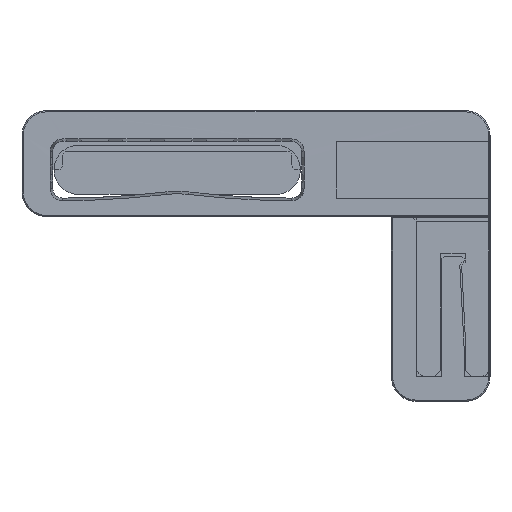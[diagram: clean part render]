
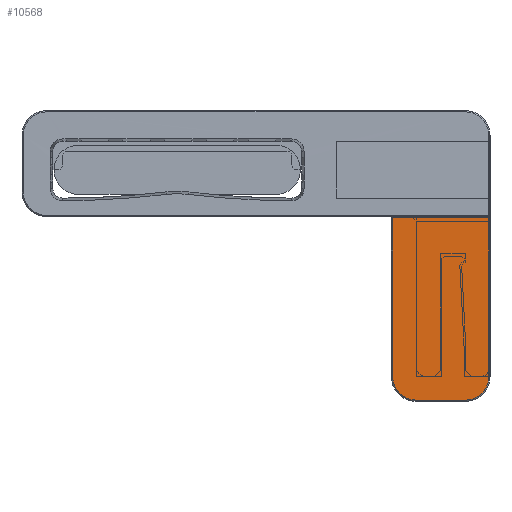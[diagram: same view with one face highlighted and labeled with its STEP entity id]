
A CAD part, left-side view. The second image highlights one B-rep face of the part: STEP entity #10568.
In plain terms, the highlighted planar face has unit normal (-1, 0, 0).
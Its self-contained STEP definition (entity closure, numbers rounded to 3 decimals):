
#2436=DIRECTION('',(0.,1.,0.));
#2437=VECTOR('',#2436,7.8);
#2438=CARTESIAN_POINT('',(-544.,-25.3,-3.9));
#2439=LINE('',#2438,#2437);
#2440=DIRECTION('',(0.,0.,1.));
#2441=VECTOR('',#2440,12.9);
#2442=CARTESIAN_POINT('',(-544.,-25.3,
-16.8));
#2443=LINE('',#2442,#2441);
#2444=CARTESIAN_POINT('',(-544.,-23.4,-16.8));
#2445=DIRECTION('',(-1.,0.,0.));
#2446=DIRECTION('',(0.,0.,-1.));
#2447=AXIS2_PLACEMENT_3D('',#2444,#2445,#2446);
#2449=DIRECTION('',(0.,-1.,0.));
#2450=VECTOR('',#2449,4.);
#2451=CARTESIAN_POINT('',(-544.,-19.4,
-18.7));
#2452=LINE('',#2451,#2450);
#2453=CARTESIAN_POINT('',(-544.,-19.4,-16.8));
#2454=DIRECTION('',(-1.,0.,0.));
#2455=DIRECTION('',(0.,1.,0.));
#2456=AXIS2_PLACEMENT_3D('',#2453,#2454,#2455);
#2458=DIRECTION('',(0.,0.,-1.));
#2459=VECTOR('',#2458,12.9);
#2460=CARTESIAN_POINT('',(-544.,-17.5,-3.9));
#2461=LINE('',#2460,#2459);
#7554=CARTESIAN_POINT('',(-544.,-25.3,-3.9));
#7555=CARTESIAN_POINT('',(-544.,-17.5,-3.9));
#7556=VERTEX_POINT('',#7554);
#7557=VERTEX_POINT('',#7555);
#7558=CARTESIAN_POINT('',(-544.,-17.5,
-16.8));
#7559=VERTEX_POINT('',#7558);
#7564=CARTESIAN_POINT('',(-544.,-19.4,-18.7));
#7565=VERTEX_POINT('',#7564);
#7568=CARTESIAN_POINT('',(-544.,-23.4,
-18.7));
#7569=VERTEX_POINT('',#7568);
#7572=CARTESIAN_POINT('',(-544.,-25.3,-16.8));
#7573=VERTEX_POINT('',#7572);
#10552=CARTESIAN_POINT('',(-544.,-21.4,-11.3));
#10553=DIRECTION('',(1.,0.,0.));
#10554=DIRECTION('',(0.,0.,-1.));
#10555=AXIS2_PLACEMENT_3D('',#10552,#10553,#10554);
#10556=PLANE('',#10555);
#10557=ORIENTED_EDGE('',*,*,#10514,.F.);
#10558=ORIENTED_EDGE('',*,*,#10531,.F.);
#10559=ORIENTED_EDGE('',*,*,#10542,.F.);
#10561=ORIENTED_EDGE('',*,*,#10560,.F.);
#10563=ORIENTED_EDGE('',*,*,#10562,.F.);
#10565=ORIENTED_EDGE('',*,*,#10564,.F.);
#10566=EDGE_LOOP('',(#10557,#10558,#10559,#10561,#10563,#10565));
#10567=FACE_OUTER_BOUND('',#10566,.F.);
#2448=CIRCLE('',#2447,1.9);
#2457=CIRCLE('',#2456,1.9);
#10514=EDGE_CURVE('',#7556,#7557,#2439,.T.);
#10531=EDGE_CURVE('',#7573,#7556,#2443,.T.);
#10542=EDGE_CURVE('',#7569,#7573,#2448,.T.);
#10560=EDGE_CURVE('',#7565,#7569,#2452,.T.);
#10562=EDGE_CURVE('',#7559,#7565,#2457,.T.);
#10564=EDGE_CURVE('',#7557,#7559,#2461,.T.);
#10568=ADVANCED_FACE('',(#10567),#10556,.F.);
